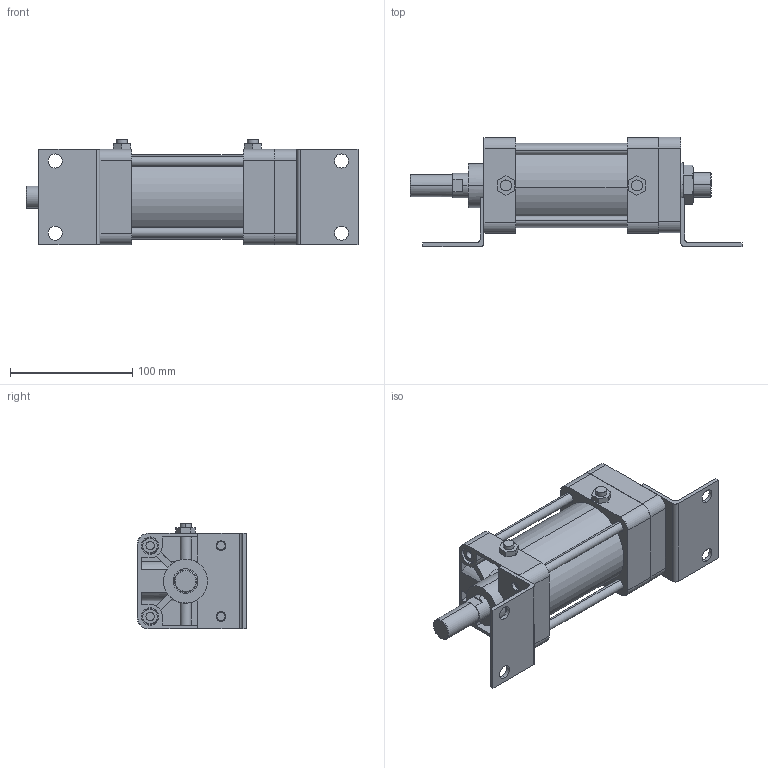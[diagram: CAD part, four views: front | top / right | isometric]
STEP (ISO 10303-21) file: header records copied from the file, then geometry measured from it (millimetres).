
FILE_DESCRIPTION (( 'STEP AP203' ), '1' );
FILE_NAME ('KGA2-63#-50-L.STEP', '2016-04-14T07:41:30', ( '' ), ( '' ), 'SwSTEP 2.0', 'SolidWorks 2014', '' );
FILE_SCHEMA (( 'CONFIG_CONTROL_DESIGN' ));
Length unit declared in the file: millimetre
Products named in the file (8): KGA2-63-After; K-63-L; KGA2-63#-50-L; KGLH2-63-50; KG2-63-After
Assembly tree (18 placements, depth 2):
  KGA2-63#-50-L
    KG2-63-After
    KGLH2-63-50
    (unnamed)
    (unnamed)  x4
    (unnamed)  x8
    K-63-L  x2
    KGA2-63-After
Bounding box: 271.5 x 89.5 x 86.3 mm (x, y, z)
Volume: 758033.4 mm3; surface area: 168025.8 mm2
Topology: 18 solids, 18 shells, 394 faces, 948 edges, 608 vertices
Faces by surface type: plane 170, cylinder 158, torus 38, cone 28
Entity records: 9953 total; most frequent: CARTESIAN_POINT 1810, DIRECTION 1538, ORIENTED_EDGE 1408, EDGE_CURVE 704, AXIS2_PLACEMENT_3D 573, VERTEX_POINT 462, VECTOR 392, LINE 392
